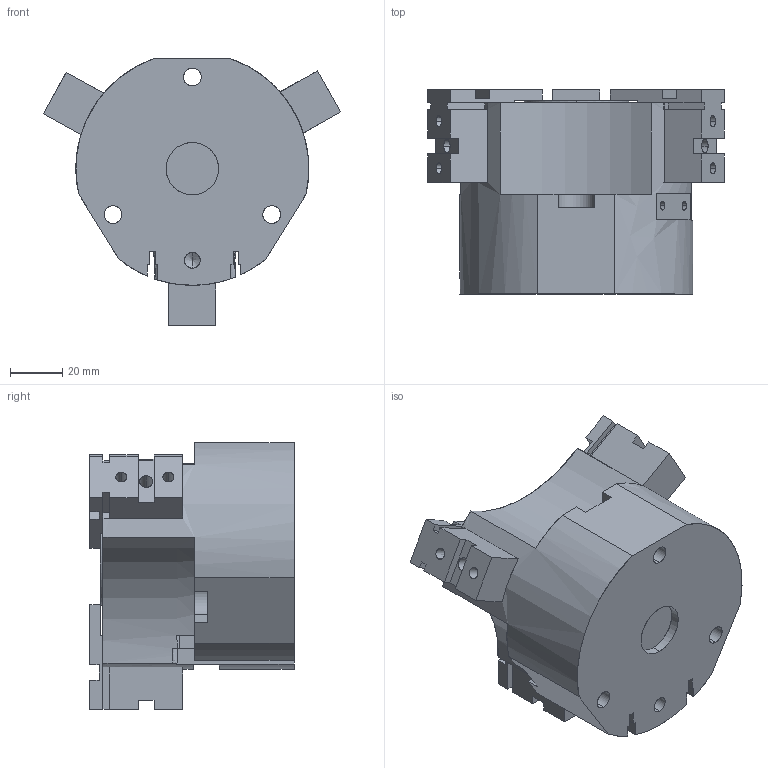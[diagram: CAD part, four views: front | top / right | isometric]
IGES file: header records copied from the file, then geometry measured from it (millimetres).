
Start section: SolidWorks IGES file using analytic representation for surfaces
Global section: file name: C:\Documents and Settings\SGA\Bureau\ROMAIN\OPE 90-3\OPE 90-3 ouvert.IGS; native system: SolidWorks 2010; preprocessor: SolidWorks 2010; author: SGA; date: 110928.094942; units: millimetre
Bounding box: 113.38 x 78 x 101.78 mm (x, y, z)
Surface area: 66681.8 mm2 (no closed solid volume)
Topology: 0 solids, 0 shells, 611 faces, 6951 edges, 6907 vertices
Faces by surface type: bspline 479, revolution 132
